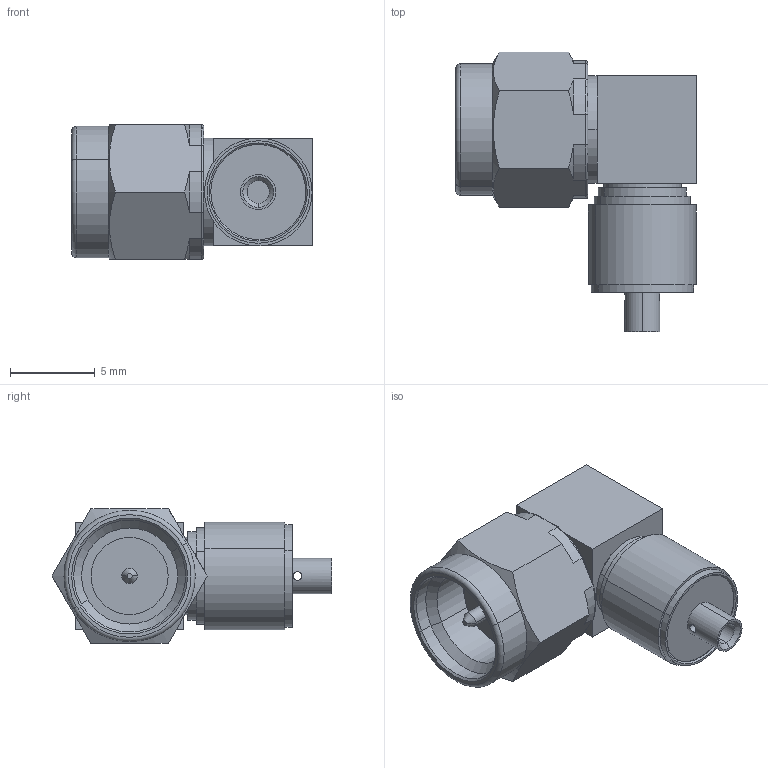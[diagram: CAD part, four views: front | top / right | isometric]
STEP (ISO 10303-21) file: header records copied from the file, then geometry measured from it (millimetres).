
FILE_DESCRIPTION (( 'STEP AP214' ), '1' );
FILE_NAME ('SF2912-60955.STEP', '2015-12-07T20:22:47', ( '' ), ( '' ), 'SwSTEP 2.0', 'SolidWorks 2015', '' );
FILE_SCHEMA (( 'AUTOMOTIVE_DESIGN' ));
Length unit declared in the file: inch
Products named in the file (1): SF2912-60955
Bounding box: 14.17 x 16.51 x 7.92 mm (x, y, z)
Volume: 735.7 mm3; surface area: 815.5 mm2
Topology: 1 solids, 1 shells, 105 faces, 232 edges, 142 vertices
Faces by surface type: cylinder 48, plane 29, cone 20, torus 8
Entity records: 4561 total; most frequent: CARTESIAN_POINT 856, DIRECTION 500, ORIENTED_EDGE 464, EDGE_CURVE 232, AXIS2_PLACEMENT_3D 202, VERTEX_POINT 142, EDGE_LOOP 122, LENGTH_MEASURE_WITH_UNIT 106
